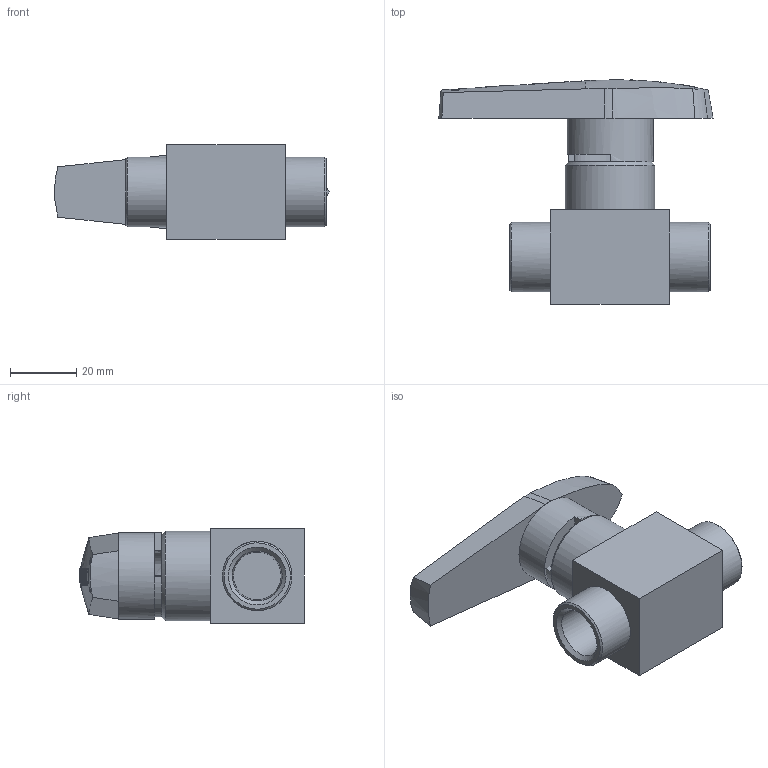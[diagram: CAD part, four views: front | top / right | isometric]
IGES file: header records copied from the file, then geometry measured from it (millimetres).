
Global section: file name: SBV120H3-F6N-S316; native system: Autodesk Inventor 2016; preprocessor: unknown; author: 이승민,,11,0; organization: 20161215.102202; date: 20161216.191425; units: millimetre
Bounding box: 82.89 x 67.9 x 28.5 mm (x, y, z)
Volume: 57588.7 mm3; surface area: 16580 mm2
Topology: 2 solids, 2 shells, 271 faces, 733 edges, 491 vertices
Faces by surface type: bspline 271
